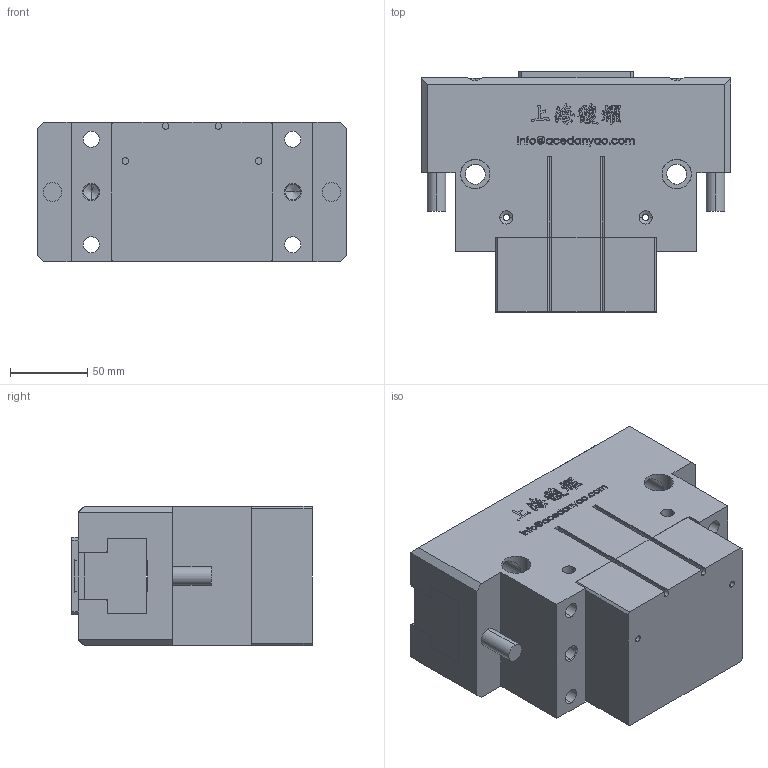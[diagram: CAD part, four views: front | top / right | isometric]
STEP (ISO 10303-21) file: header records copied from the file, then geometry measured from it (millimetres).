
FILE_DESCRIPTION (( 'STEP AP203' ), '1' );
FILE_NAME ('OPP2-200-C1-MC&MA-原始檔-組合-W106.04.19.STEP', '2017-04-19T05:44:20', ( 'DanyaoCAD' ), ( '' ), 'SwSTEP 2.0', 'SolidWorks 2016', '' );
FILE_SCHEMA (( 'CONFIG_CONTROL_DESIGN' ));
Length unit declared in the file: millimetre
Products named in the file (5): Corpo; OPP2-200-C1-MC&MA-原始檔-組合-W106.04.19; Griffa; Coperchio; Fondello
Assembly tree (5 placements, depth 2):
  OPP2-200-C1-MC&MA-原始檔-組合-W106.04.19
    Griffa  x2
    Coperchio
    Fondello
    Corpo
Bounding box: 200 x 155 x 90 mm (x, y, z)
Volume: 2003483.6 mm3; surface area: 241575.1 mm2
Topology: 5 solids, 5 shells, 1073 faces, 2970 edges, 1954 vertices
Faces by surface type: bspline 640, plane 289, cylinder 104, cone 40
Entity records: 50410 total; most frequent: CARTESIAN_POINT 27698, ORIENTED_EDGE 5722, EDGE_CURVE 2861, DIRECTION 2555, VERTEX_POINT 1894, LINE 1349, VECTOR 1349, B_SPLINE_CURVE_WITH_KNOTS 1304
